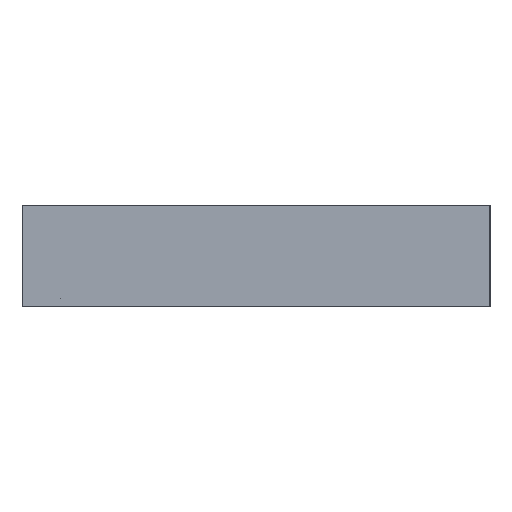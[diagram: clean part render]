
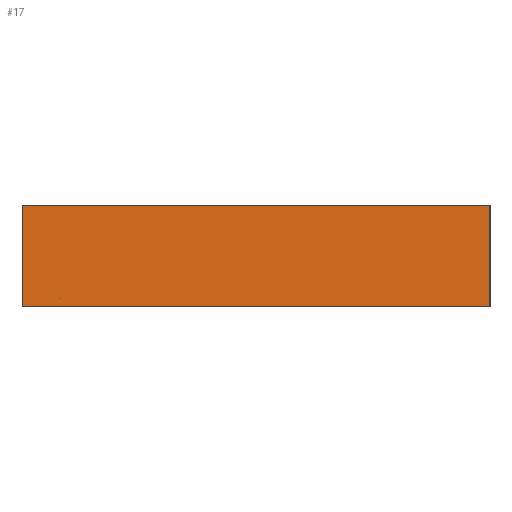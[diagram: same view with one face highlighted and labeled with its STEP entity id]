
A CAD part, left-side view. The second image highlights one B-rep face of the part: STEP entity #17.
In plain terms, the highlighted planar face has unit normal (-1, 0, 0).
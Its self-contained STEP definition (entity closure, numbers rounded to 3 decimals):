
#17 = ADVANCED_FACE('',(#18),#32,.F.);
#18 = FACE_BOUND('',#19,.F.);
#19 = EDGE_LOOP('',(#20,#55,#83,#111));
#20 = ORIENTED_EDGE('',*,*,#21,.F.);
#21 = EDGE_CURVE('',#22,#24,#26,.T.);
#22 = VERTEX_POINT('',#23);
#23 = CARTESIAN_POINT('',(-15.,-9.2,-2.));
#24 = VERTEX_POINT('',#25);
#25 = CARTESIAN_POINT('',(-15.,-9.2,2.));
#26 = SURFACE_CURVE('',#27,(#31,#43),.PCURVE_S1.);
#27 = LINE('',#28,#29);
#28 = CARTESIAN_POINT('',(-15.,-9.2,-2.));
#29 = VECTOR('',#30,1.);
#30 = DIRECTION('',(0.,0.,1.));
#31 = PCURVE('',#32,#37);
#32 = PLANE('',#33);
#33 = AXIS2_PLACEMENT_3D('',#34,#35,#36);
#34 = CARTESIAN_POINT('',(-15.,-9.2,-2.));
#35 = DIRECTION('',(1.,0.,0.));
#36 = DIRECTION('',(0.,0.,1.));
#37 = DEFINITIONAL_REPRESENTATION('',(#38),#42);
#38 = LINE('',#39,#40);
#39 = CARTESIAN_POINT('',(0.,0.));
#40 = VECTOR('',#41,1.);
#41 = DIRECTION('',(1.,0.));
#42 = ( GEOMETRIC_REPRESENTATION_CONTEXT(2) 
PARAMETRIC_REPRESENTATION_CONTEXT() REPRESENTATION_CONTEXT('2D SPACE',''
  ) );
#43 = PCURVE('',#44,#49);
#44 = PLANE('',#45);
#45 = AXIS2_PLACEMENT_3D('',#46,#47,#48);
#46 = CARTESIAN_POINT('',(-15.,-9.2,-2.));
#47 = DIRECTION('',(0.,1.,0.));
#48 = DIRECTION('',(0.,0.,1.));
#49 = DEFINITIONAL_REPRESENTATION('',(#50),#54);
#50 = LINE('',#51,#52);
#51 = CARTESIAN_POINT('',(0.,0.));
#52 = VECTOR('',#53,1.);
#53 = DIRECTION('',(1.,0.));
#54 = ( GEOMETRIC_REPRESENTATION_CONTEXT(2) 
PARAMETRIC_REPRESENTATION_CONTEXT() REPRESENTATION_CONTEXT('2D SPACE',''
  ) );
#55 = ORIENTED_EDGE('',*,*,#56,.T.);
#56 = EDGE_CURVE('',#22,#57,#59,.T.);
#57 = VERTEX_POINT('',#58);
#58 = CARTESIAN_POINT('',(-15.,9.2,-2.));
#59 = SURFACE_CURVE('',#60,(#64,#71),.PCURVE_S1.);
#60 = LINE('',#61,#62);
#61 = CARTESIAN_POINT('',(-15.,-9.2,-2.));
#62 = VECTOR('',#63,1.);
#63 = DIRECTION('',(0.,1.,0.));
#64 = PCURVE('',#32,#65);
#65 = DEFINITIONAL_REPRESENTATION('',(#66),#70);
#66 = LINE('',#67,#68);
#67 = CARTESIAN_POINT('',(0.,0.));
#68 = VECTOR('',#69,1.);
#69 = DIRECTION('',(0.,-1.));
#70 = ( GEOMETRIC_REPRESENTATION_CONTEXT(2) 
PARAMETRIC_REPRESENTATION_CONTEXT() REPRESENTATION_CONTEXT('2D SPACE',''
  ) );
#71 = PCURVE('',#72,#77);
#72 = PLANE('',#73);
#73 = AXIS2_PLACEMENT_3D('',#74,#75,#76);
#74 = CARTESIAN_POINT('',(-15.,-9.2,-2.));
#75 = DIRECTION('',(0.,0.,1.));
#76 = DIRECTION('',(1.,0.,0.));
#77 = DEFINITIONAL_REPRESENTATION('',(#78),#82);
#78 = LINE('',#79,#80);
#79 = CARTESIAN_POINT('',(0.,0.));
#80 = VECTOR('',#81,1.);
#81 = DIRECTION('',(0.,1.));
#82 = ( GEOMETRIC_REPRESENTATION_CONTEXT(2) 
PARAMETRIC_REPRESENTATION_CONTEXT() REPRESENTATION_CONTEXT('2D SPACE',''
  ) );
#83 = ORIENTED_EDGE('',*,*,#84,.T.);
#84 = EDGE_CURVE('',#57,#85,#87,.T.);
#85 = VERTEX_POINT('',#86);
#86 = CARTESIAN_POINT('',(-15.,9.2,2.));
#87 = SURFACE_CURVE('',#88,(#92,#99),.PCURVE_S1.);
#88 = LINE('',#89,#90);
#89 = CARTESIAN_POINT('',(-15.,9.2,-2.));
#90 = VECTOR('',#91,1.);
#91 = DIRECTION('',(0.,0.,1.));
#92 = PCURVE('',#32,#93);
#93 = DEFINITIONAL_REPRESENTATION('',(#94),#98);
#94 = LINE('',#95,#96);
#95 = CARTESIAN_POINT('',(0.,-18.4));
#96 = VECTOR('',#97,1.);
#97 = DIRECTION('',(1.,0.));
#98 = ( GEOMETRIC_REPRESENTATION_CONTEXT(2) 
PARAMETRIC_REPRESENTATION_CONTEXT() REPRESENTATION_CONTEXT('2D SPACE',''
  ) );
#99 = PCURVE('',#100,#105);
#100 = PLANE('',#101);
#101 = AXIS2_PLACEMENT_3D('',#102,#103,#104);
#102 = CARTESIAN_POINT('',(-15.,9.2,-2.));
#103 = DIRECTION('',(0.,1.,0.));
#104 = DIRECTION('',(0.,0.,1.));
#105 = DEFINITIONAL_REPRESENTATION('',(#106),#110);
#106 = LINE('',#107,#108);
#107 = CARTESIAN_POINT('',(0.,0.));
#108 = VECTOR('',#109,1.);
#109 = DIRECTION('',(1.,0.));
#110 = ( GEOMETRIC_REPRESENTATION_CONTEXT(2) 
PARAMETRIC_REPRESENTATION_CONTEXT() REPRESENTATION_CONTEXT('2D SPACE',''
  ) );
#111 = ORIENTED_EDGE('',*,*,#112,.F.);
#112 = EDGE_CURVE('',#24,#85,#113,.T.);
#113 = SURFACE_CURVE('',#114,(#118,#125),.PCURVE_S1.);
#114 = LINE('',#115,#116);
#115 = CARTESIAN_POINT('',(-15.,-9.2,2.));
#116 = VECTOR('',#117,1.);
#117 = DIRECTION('',(0.,1.,0.));
#118 = PCURVE('',#32,#119);
#119 = DEFINITIONAL_REPRESENTATION('',(#120),#124);
#120 = LINE('',#121,#122);
#121 = CARTESIAN_POINT('',(4.,0.));
#122 = VECTOR('',#123,1.);
#123 = DIRECTION('',(0.,-1.));
#124 = ( GEOMETRIC_REPRESENTATION_CONTEXT(2) 
PARAMETRIC_REPRESENTATION_CONTEXT() REPRESENTATION_CONTEXT('2D SPACE',''
  ) );
#125 = PCURVE('',#126,#131);
#126 = PLANE('',#127);
#127 = AXIS2_PLACEMENT_3D('',#128,#129,#130);
#128 = CARTESIAN_POINT('',(-15.,-9.2,2.));
#129 = DIRECTION('',(0.,0.,1.));
#130 = DIRECTION('',(1.,0.,0.));
#131 = DEFINITIONAL_REPRESENTATION('',(#132),#136);
#132 = LINE('',#133,#134);
#133 = CARTESIAN_POINT('',(0.,0.));
#134 = VECTOR('',#135,1.);
#135 = DIRECTION('',(0.,1.));
#136 = ( GEOMETRIC_REPRESENTATION_CONTEXT(2) 
PARAMETRIC_REPRESENTATION_CONTEXT() REPRESENTATION_CONTEXT('2D SPACE',''
  ) );
